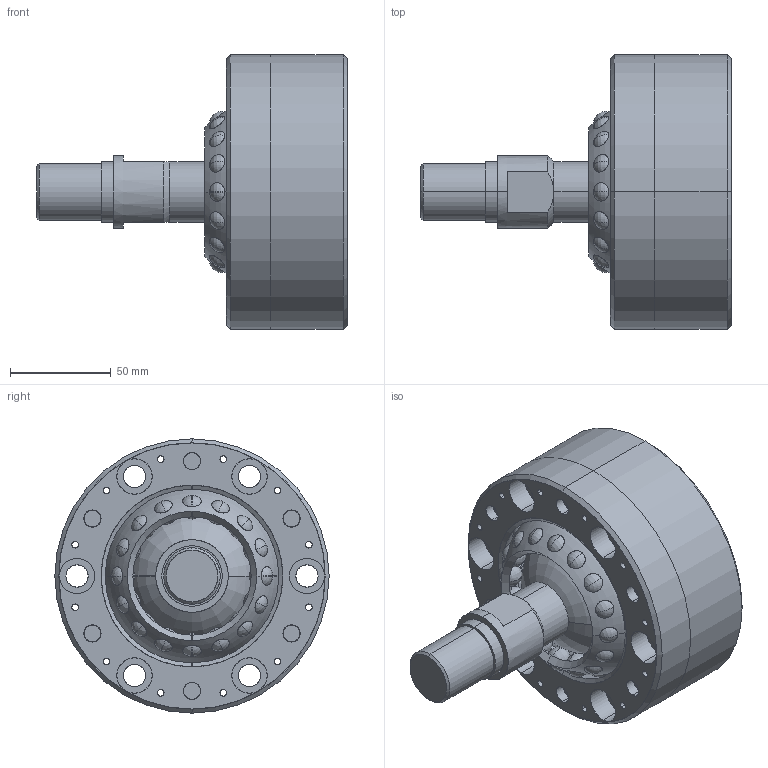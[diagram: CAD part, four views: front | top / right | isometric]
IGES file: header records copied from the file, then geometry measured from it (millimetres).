
Start section: SolidWorks IGES file using analytic representation for surfaces
Global section: file name: C:\Users\render\Documents\CAD Files\SRJ\SRJ048C\SR JOINT - SRJ048C.IGS; native system: SolidWorks 2009; preprocessor: SolidWorks 2009; author: render; date: 100601.155209; units: millimetre
Bounding box: 154 x 136 x 136 mm (x, y, z)
Surface area: 149594.6 mm2 (no closed solid volume)
Topology: 0 solids, 0 shells, 432 faces, 13068 edges, 12974 vertices
Faces by surface type: revolution 332, bspline 100
